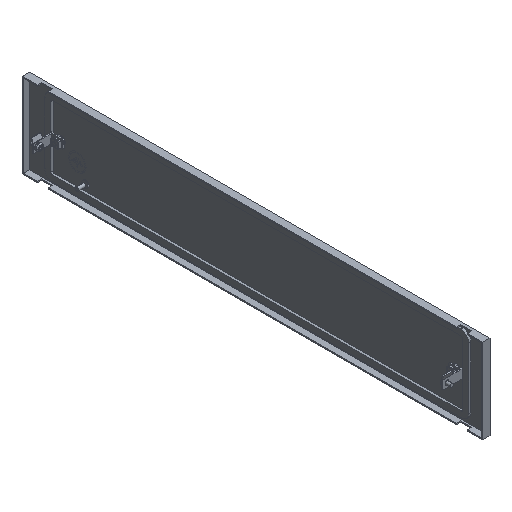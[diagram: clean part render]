
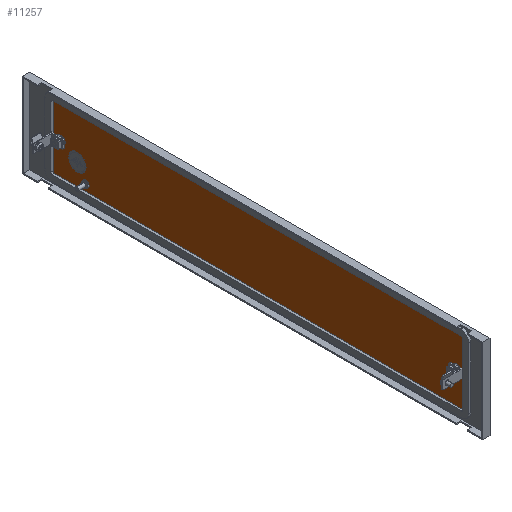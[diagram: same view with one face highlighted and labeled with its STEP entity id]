
A CAD part, isometric view. The second image highlights one B-rep face of the part: STEP entity #11257.
In plain terms, the highlighted planar face has unit normal (-1, 0, 0).
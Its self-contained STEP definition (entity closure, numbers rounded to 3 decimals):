
#109 = CARTESIAN_POINT ( 'NONE',  ( -2., 349.328, 0. ) ) ;
#269 = CARTESIAN_POINT ( 'NONE',  ( -2., -352.5, -53. ) ) ;
#324 = CARTESIAN_POINT ( 'NONE',  ( -2., 354.5, -53. ) ) ;
#368 = EDGE_CURVE ( 'NONE', #637, #2691, #4316, .T. ) ;
#637 = VERTEX_POINT ( 'NONE', #324 ) ;
#646 = DIRECTION ( 'NONE',  ( 0., 0., -1. ) ) ;
#838 = DIRECTION ( 'NONE',  ( 0., 0., -1. ) ) ;
#867 = ORIENTED_EDGE ( 'NONE', *, *, #1341, .T. ) ;
#881 = CARTESIAN_POINT ( 'NONE',  ( -2., 297.5, -43. ) ) ;
#897 = VECTOR ( 'NONE', #8859, 1000. ) ;
#991 = ORIENTED_EDGE ( 'NONE', *, *, #368, .F. ) ;
#993 = CIRCLE ( 'NONE', #10952, 7.828 ) ;
#1063 = EDGE_CURVE ( 'NONE', #9114, #637, #9704, .T. ) ;
#1341 = EDGE_CURVE ( 'NONE', #5762, #6403, #11962, .T. ) ;
#1478 = PLANE ( 'NONE',  #3913 ) ;
#1540 = AXIS2_PLACEMENT_3D ( 'NONE', #7780, #4515, #8844 ) ;
#1546 = FACE_BOUND ( 'NONE', #10658, .T. ) ;
#1733 = ORIENTED_EDGE ( 'NONE', *, *, #11274, .F. ) ;
#1894 = EDGE_CURVE ( 'NONE', #3586, #12619, #10863, .T. ) ;
#2067 = DIRECTION ( 'NONE',  ( 0., 0., -1. ) ) ;
#2182 = CARTESIAN_POINT ( 'NONE',  ( -2., 354.5, 53. ) ) ;
#2200 = CARTESIAN_POINT ( 'NONE',  ( -2., -352.5, 55. ) ) ;
#2264 = VERTEX_POINT ( 'NONE', #12399 ) ;
#2338 = LINE ( 'NONE', #5795, #5053 ) ;
#2345 = CARTESIAN_POINT ( 'NONE',  ( -2., 352.5, 55. ) ) ;
#2451 = CIRCLE ( 'NONE', #1540, 2.65 ) ;
#2618 = VERTEX_POINT ( 'NONE', #3579 ) ;
#2622 = CARTESIAN_POINT ( 'NONE',  ( -2., -352.5, 55. ) ) ;
#2691 = VERTEX_POINT ( 'NONE', #2182 ) ;
#2749 = DIRECTION ( 'NONE',  ( -1., 0., 0. ) ) ;
#2764 = ORIENTED_EDGE ( 'NONE', *, *, #3965, .F. ) ;
#2794 = CARTESIAN_POINT ( 'NONE',  ( -2., 297.5, -40.35 ) ) ;
#2851 = VERTEX_POINT ( 'NONE', #109 ) ;
#2908 = CIRCLE ( 'NONE', #9011, 2. ) ;
#3108 = DIRECTION ( 'NONE',  ( 1., 0., 0. ) ) ;
#3579 = CARTESIAN_POINT ( 'NONE',  ( -2., -354.5, 53. ) ) ;
#3586 = VERTEX_POINT ( 'NONE', #4083 ) ;
#3605 = ORIENTED_EDGE ( 'NONE', *, *, #8620, .T. ) ;
#3745 = DIRECTION ( 'NONE',  ( 0., 0., 1. ) ) ;
#3778 = ORIENTED_EDGE ( 'NONE', *, *, #6859, .F. ) ;
#3781 = EDGE_CURVE ( 'NONE', #6424, #8510, #993, .T. ) ;
#3874 = EDGE_CURVE ( 'NONE', #8722, #7460, #6666, .T. ) ;
#3913 = AXIS2_PLACEMENT_3D ( 'NONE', #12021, #10185, #3745 ) ;
#3925 = ORIENTED_EDGE ( 'NONE', *, *, #8115, .F. ) ;
#3965 = EDGE_CURVE ( 'NONE', #12619, #3586, #11852, .T. ) ;
#4083 = CARTESIAN_POINT ( 'NONE',  ( -2., 297.5, -18. ) ) ;
#4085 = CARTESIAN_POINT ( 'NONE',  ( -2., 312.5, -18. ) ) ;
#4199 = DIRECTION ( 'NONE',  ( -1., 0., 0. ) ) ;
#4316 = LINE ( 'NONE', #11966, #5144 ) ;
#4401 = DIRECTION ( 'NONE',  ( 1., 0., 0. ) ) ;
#4428 = EDGE_LOOP ( 'NONE', ( #9013, #5925 ) ) ;
#4493 = DIRECTION ( 'NONE',  ( 0., 0., -1. ) ) ;
#4515 = DIRECTION ( 'NONE',  ( -1., 0., 0. ) ) ;
#4577 = CARTESIAN_POINT ( 'NONE',  ( -2., -354.5, 0. ) ) ;
#4671 = VERTEX_POINT ( 'NONE', #8898 ) ;
#4821 = CARTESIAN_POINT ( 'NONE',  ( -2., 352.5, -53. ) ) ;
#5053 = VECTOR ( 'NONE', #9981, 1000. ) ;
#5144 = VECTOR ( 'NONE', #12888, 1000. ) ;
#5162 = DIRECTION ( 'NONE',  ( -1., 0., 0. ) ) ;
#5268 = CIRCLE ( 'NONE', #5985, 7.828 ) ;
#5661 = EDGE_LOOP ( 'NONE', ( #7501, #3605 ) ) ;
#5705 = LINE ( 'NONE', #4577, #9857 ) ;
#5762 = VERTEX_POINT ( 'NONE', #2622 ) ;
#5795 = CARTESIAN_POINT ( 'NONE',  ( -2., -352.5, -55. ) ) ;
#5925 = ORIENTED_EDGE ( 'NONE', *, *, #3781, .T. ) ;
#5949 = DIRECTION ( 'NONE',  ( 1., 0., 0. ) ) ;
#5985 = AXIS2_PLACEMENT_3D ( 'NONE', #7449, #4401, #2067 ) ;
#6051 = DIRECTION ( 'NONE',  ( 0., 0., -1. ) ) ;
#6403 = VERTEX_POINT ( 'NONE', #2345 ) ;
#6407 = DIRECTION ( 'NONE',  ( 1., 0., 0. ) ) ;
#6424 = VERTEX_POINT ( 'NONE', #10978 ) ;
#6495 = EDGE_LOOP ( 'NONE', ( #13679, #2764 ) ) ;
#6584 = VERTEX_POINT ( 'NONE', #11186 ) ;
#6666 = CIRCLE ( 'NONE', #11621, 2.65 ) ;
#6791 = EDGE_CURVE ( 'NONE', #6403, #2691, #2908, .T. ) ;
#6859 = EDGE_CURVE ( 'NONE', #7460, #8722, #2451, .T. ) ;
#6863 = DIRECTION ( 'NONE',  ( -1., 0., 0. ) ) ;
#6910 = CIRCLE ( 'NONE', #7361, 7.828 ) ;
#7361 = AXIS2_PLACEMENT_3D ( 'NONE', #9380, #8258, #6051 ) ;
#7445 = DIRECTION ( 'NONE',  ( 1., 0., 0. ) ) ;
#7449 = CARTESIAN_POINT ( 'NONE',  ( -2., -341.5, 0. ) ) ;
#7460 = VERTEX_POINT ( 'NONE', #8175 ) ;
#7501 = ORIENTED_EDGE ( 'NONE', *, *, #9565, .T. ) ;
#7780 = CARTESIAN_POINT ( 'NONE',  ( -2., 297.5, -43. ) ) ;
#8077 = CARTESIAN_POINT ( 'NONE',  ( -2., 341.5, 0. ) ) ;
#8115 = EDGE_CURVE ( 'NONE', #4671, #6584, #8700, .T. ) ;
#8130 = DIRECTION ( 'NONE',  ( 0., -1., 0. ) ) ;
#8138 = AXIS2_PLACEMENT_3D ( 'NONE', #4821, #5949, #646 ) ;
#8173 = EDGE_CURVE ( 'NONE', #2618, #5762, #11179, .T. ) ;
#8175 = CARTESIAN_POINT ( 'NONE',  ( -2., 297.5, -45.65 ) ) ;
#8258 = DIRECTION ( 'NONE',  ( 1., 0., 0. ) ) ;
#8338 = ORIENTED_EDGE ( 'NONE', *, *, #6791, .T. ) ;
#8510 = VERTEX_POINT ( 'NONE', #11082 ) ;
#8591 = DIRECTION ( 'NONE',  ( 0., 0., -1. ) ) ;
#8620 = EDGE_CURVE ( 'NONE', #2851, #2264, #6910, .T. ) ;
#8628 = DIRECTION ( 'NONE',  ( 0., 0., -1. ) ) ;
#8700 = CIRCLE ( 'NONE', #12308, 2. ) ;
#8722 = VERTEX_POINT ( 'NONE', #2794 ) ;
#8747 = ORIENTED_EDGE ( 'NONE', *, *, #3874, .F. ) ;
#8844 = DIRECTION ( 'NONE',  ( 0., 0., -1. ) ) ;
#8859 = DIRECTION ( 'NONE',  ( 0., 1., 0. ) ) ;
#8898 = CARTESIAN_POINT ( 'NONE',  ( -2., -354.5, -53. ) ) ;
#8997 = ORIENTED_EDGE ( 'NONE', *, *, #1063, .F. ) ;
#9011 = AXIS2_PLACEMENT_3D ( 'NONE', #10602, #5162, #9481 ) ;
#9013 = ORIENTED_EDGE ( 'NONE', *, *, #10724, .T. ) ;
#9114 = VERTEX_POINT ( 'NONE', #9361 ) ;
#9361 = CARTESIAN_POINT ( 'NONE',  ( -2., 352.5, -55. ) ) ;
#9380 = CARTESIAN_POINT ( 'NONE',  ( -2., 341.5, 0. ) ) ;
#9481 = DIRECTION ( 'NONE',  ( 0., 0., 1. ) ) ;
#9536 = EDGE_LOOP ( 'NONE', ( #9955, #12691, #867, #8338, #991, #8997, #1733, #3925 ) ) ;
#9565 = EDGE_CURVE ( 'NONE', #2264, #2851, #12316, .T. ) ;
#9663 = CARTESIAN_POINT ( 'NONE',  ( -2., -341.5, 0. ) ) ;
#9704 = CIRCLE ( 'NONE', #8138, 2. ) ;
#9792 = CARTESIAN_POINT ( 'NONE',  ( -2., 312.5, -18. ) ) ;
#9857 = VECTOR ( 'NONE', #12085, 1000. ) ;
#9914 = FACE_BOUND ( 'NONE', #4428, .T. ) ;
#9955 = ORIENTED_EDGE ( 'NONE', *, *, #12649, .F. ) ;
#9981 = DIRECTION ( 'NONE',  ( 0., 1., 0. ) ) ;
#10185 = DIRECTION ( 'NONE',  ( 1., 0., 0. ) ) ;
#10602 = CARTESIAN_POINT ( 'NONE',  ( -2., 352.5, 53. ) ) ;
#10658 = EDGE_LOOP ( 'NONE', ( #3778, #8747 ) ) ;
#10682 = DIRECTION ( 'NONE',  ( 0., -1., 0. ) ) ;
#10724 = EDGE_CURVE ( 'NONE', #8510, #6424, #5268, .T. ) ;
#10727 = AXIS2_PLACEMENT_3D ( 'NONE', #8077, #3108, #8628 ) ;
#10863 = CIRCLE ( 'NONE', #12216, 15. ) ;
#10952 = AXIS2_PLACEMENT_3D ( 'NONE', #9663, #6407, #13833 ) ;
#10973 = FACE_BOUND ( 'NONE', #6495, .T. ) ;
#10978 = CARTESIAN_POINT ( 'NONE',  ( -2., -349.328, 0. ) ) ;
#11082 = CARTESIAN_POINT ( 'NONE',  ( -2., -333.672, 0. ) ) ;
#11179 = CIRCLE ( 'NONE', #13892, 2. ) ;
#11186 = CARTESIAN_POINT ( 'NONE',  ( -2., -352.5, -55. ) ) ;
#11257 = ADVANCED_FACE ( 'NONE', ( #13310, #10973, #1546, #9914, #13247 ), #1478, .F. ) ;
#11274 = EDGE_CURVE ( 'NONE', #6584, #9114, #2338, .T. ) ;
#11621 = AXIS2_PLACEMENT_3D ( 'NONE', #881, #12266, #4493 ) ;
#11852 = CIRCLE ( 'NONE', #13673, 15. ) ;
#11962 = LINE ( 'NONE', #2200, #897 ) ;
#11966 = CARTESIAN_POINT ( 'NONE',  ( -2., 354.5, -53. ) ) ;
#12021 = CARTESIAN_POINT ( 'NONE',  ( -2., 0., 0. ) ) ;
#12085 = DIRECTION ( 'NONE',  ( 0., 0., -1. ) ) ;
#12216 = AXIS2_PLACEMENT_3D ( 'NONE', #9792, #4199, #8591 ) ;
#12218 = CARTESIAN_POINT ( 'NONE',  ( -2., 327.5, -18. ) ) ;
#12266 = DIRECTION ( 'NONE',  ( -1., 0., 0. ) ) ;
#12308 = AXIS2_PLACEMENT_3D ( 'NONE', #269, #7445, #10682 ) ;
#12316 = CIRCLE ( 'NONE', #10727, 7.828 ) ;
#12399 = CARTESIAN_POINT ( 'NONE',  ( -2., 333.672, 0. ) ) ;
#12619 = VERTEX_POINT ( 'NONE', #12218 ) ;
#12649 = EDGE_CURVE ( 'NONE', #2618, #4671, #5705, .T. ) ;
#12691 = ORIENTED_EDGE ( 'NONE', *, *, #8173, .T. ) ;
#12888 = DIRECTION ( 'NONE',  ( 0., 0., 1. ) ) ;
#13247 = FACE_BOUND ( 'NONE', #5661, .T. ) ;
#13310 = FACE_OUTER_BOUND ( 'NONE', #9536, .T. ) ;
#13429 = CARTESIAN_POINT ( 'NONE',  ( -2., -352.5, 53. ) ) ;
#13673 = AXIS2_PLACEMENT_3D ( 'NONE', #4085, #2749, #838 ) ;
#13679 = ORIENTED_EDGE ( 'NONE', *, *, #1894, .F. ) ;
#13833 = DIRECTION ( 'NONE',  ( 0., 0., -1. ) ) ;
#13892 = AXIS2_PLACEMENT_3D ( 'NONE', #13429, #6863, #8130 ) ;
